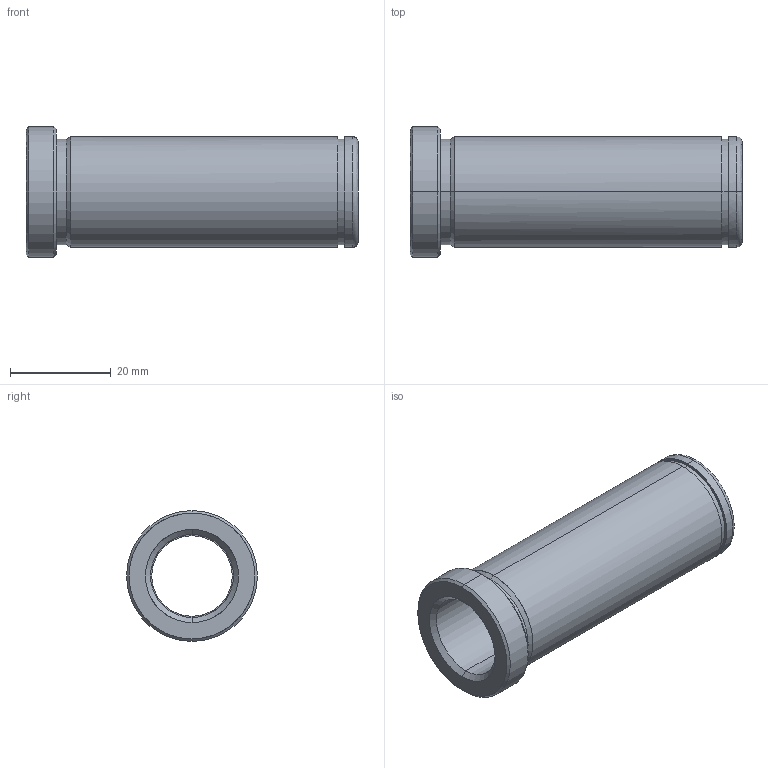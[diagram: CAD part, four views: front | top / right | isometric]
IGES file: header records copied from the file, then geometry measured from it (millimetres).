
Start section: START RECORD GO HERE.
Global section: file name: 553-16X66.igs; native system: DASSAULT SYSTEMES CATIA V5 R20 - www.3ds.com; preprocessor: CATIA Version 5 Release 20 ; author: Utente; organization: NB04-ASUS; date: 20210521.204506; units: millimetre
Bounding box: 66 x 26 x 26 mm (x, y, z)
Surface area: 8605.3 mm2 (no closed solid volume)
Topology: 0 solids, 0 shells, 32 faces, 204 edges, 204 vertices
Faces by surface type: revolution 26, plane 6
